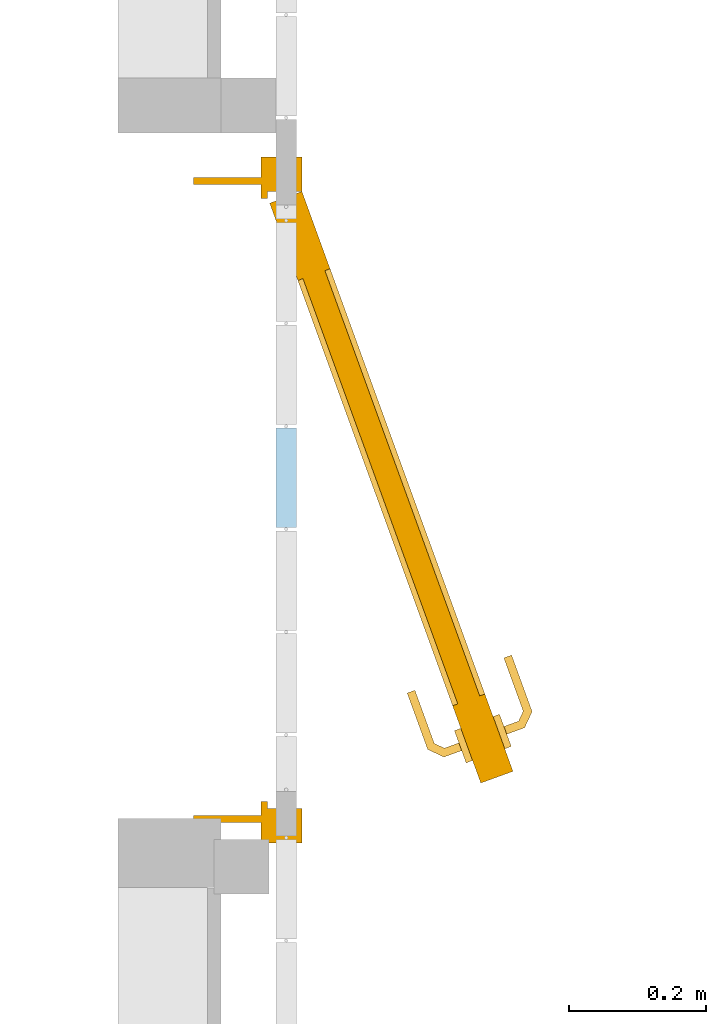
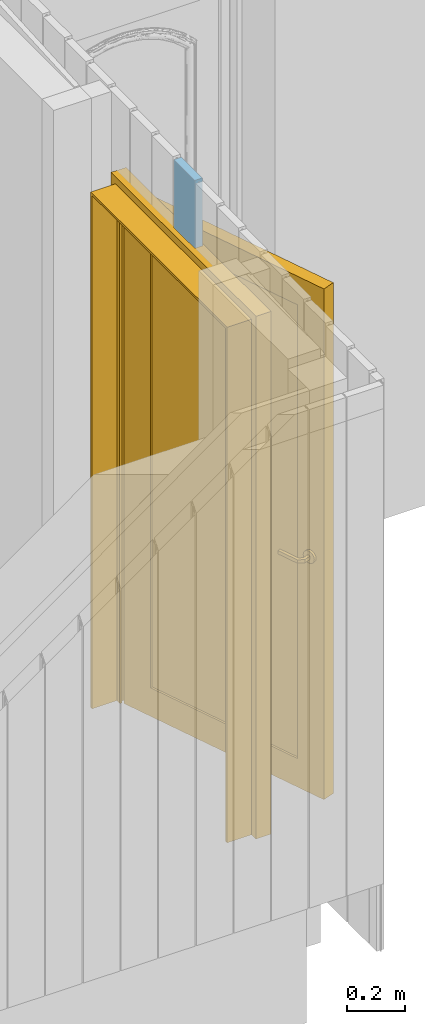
# One storey, part 73 of 81: 1 door, 1 opening, 1 element without a shape of its own, plus 1 element that does not belong to this part.
"""IFC2X3 building model written with IfcOpenShell, lengths in metres."""

from ifc_helpers import new_model, entity, si_unit, converted_unit, derived_unit, direction, frame, frame_2d, origin, place, context, subcontext, project, spatial, rectangle, extrude, faceted_brep, source, transform, mapped, material, material_list, layer, layer_set, layer_usage, type_object, type_shapes, element, fill, aggregate, save


model = new_model("IFC2X3")

# Units and contexts
model_context = context("Model", 3, precision=1e-05, world=origin(), true_north=direction((6.12303176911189e-17, 1.0)))
body_context = subcontext(model_context, "Body", "Model", "MODEL_VIEW")
ifc_project = project(units=[si_unit("LENGTHUNIT", "METRE"), si_unit("AREAUNIT", "SQUARE_METRE"), si_unit("VOLUMEUNIT", "CUBIC_METRE"), converted_unit("PLANEANGLEUNIT", "DEGREE", entity("IfcRatioMeasure", 0.0174532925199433), si_unit("PLANEANGLEUNIT", "RADIAN"), dimensions=[0, 0, 0, 0, 0, 0, 0]), si_unit("MASSUNIT", "GRAM", prefix="KILO"), derived_unit("MASSDENSITYUNIT", [(si_unit("MASSUNIT", "GRAM", prefix="KILO"), 1), (si_unit("LENGTHUNIT", "METRE"), -3)]), derived_unit("MOMENTOFINERTIAUNIT", [(si_unit("LENGTHUNIT", "METRE"), 4)]), si_unit("TIMEUNIT", "SECOND"), si_unit("FREQUENCYUNIT", "HERTZ"), si_unit("THERMODYNAMICTEMPERATUREUNIT", "DEGREE_CELSIUS"), derived_unit("THERMALTRANSMITTANCEUNIT", [(si_unit("MASSUNIT", "GRAM", prefix="KILO"), 1), (si_unit("THERMODYNAMICTEMPERATUREUNIT", "KELVIN"), -1), (si_unit("TIMEUNIT", "SECOND"), -3)]), derived_unit("VOLUMETRICFLOWRATEUNIT", [(si_unit("LENGTHUNIT", "METRE"), 3), (si_unit("TIMEUNIT", "SECOND"), -1)]), si_unit("ELECTRICCURRENTUNIT", "AMPERE"), si_unit("ELECTRICVOLTAGEUNIT", "VOLT"), si_unit("POWERUNIT", "WATT"), si_unit("FORCEUNIT", "NEWTON", prefix="KILO"), si_unit("ILLUMINANCEUNIT", "LUX"), si_unit("LUMINOUSFLUXUNIT", "LUMEN"), si_unit("LUMINOUSINTENSITYUNIT", "CANDELA"), derived_unit("USERDEFINED", [(si_unit("MASSUNIT", "GRAM", prefix="KILO"), -1), (si_unit("LENGTHUNIT", "METRE"), -2), (si_unit("TIMEUNIT", "SECOND"), 3), (si_unit("LUMINOUSFLUXUNIT", "LUMEN"), 1)]), derived_unit("LINEARVELOCITYUNIT", [(si_unit("LENGTHUNIT", "METRE"), 1), (si_unit("TIMEUNIT", "SECOND"), -1)]), si_unit("PRESSUREUNIT", "PASCAL"), derived_unit("USERDEFINED", [(si_unit("LENGTHUNIT", "METRE"), -2), (si_unit("MASSUNIT", "GRAM", prefix="KILO"), 1), (si_unit("TIMEUNIT", "SECOND"), -2)]), derived_unit("LINEARFORCEUNIT", [(si_unit("MASSUNIT", "GRAM", prefix="KILO"), 1), (si_unit("LENGTHUNIT", "METRE"), 1), (si_unit("TIMEUNIT", "SECOND"), -2), (si_unit("LENGTHUNIT", "METRE"), -1)]), derived_unit("PLANARFORCEUNIT", [(si_unit("MASSUNIT", "GRAM", prefix="KILO"), 1), (si_unit("LENGTHUNIT", "METRE"), 1), (si_unit("TIMEUNIT", "SECOND"), -2), (si_unit("LENGTHUNIT", "METRE"), -2)])], contexts=[model_context])

# Site, building, storey
site_placement = place(None, origin())
site = spatial("IfcSite", under=ifc_project, at=site_placement, Name="Surface", CompositionType="ELEMENT")
building_placement = place(site_placement, origin())
building = spatial("IfcBuilding", under=site, at=building_placement, CompositionType="ELEMENT")
storey_placement = place(building_placement, origin())
storey = spatial("IfcBuildingStorey", under=building, at=storey_placement, Name="01 RDC", CompositionType="ELEMENT", Elevation=-1.94916083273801e-14)

# Curtain wall, wall, opening, door
curtain_wall_type = type_object("IfcCurtainWallType", Name="Mur-rideau:1m x 2m", PredefinedType="NOTDEFINED")
curtain_wall_placement = place(storey_placement, origin())
curtain_wall = element("IfcCurtainWall", 1, at=curtain_wall_placement, inside=storey, type_object=curtain_wall_type, Name="Mur-rideau:1m x 2m", ObjectType="Mur-rideau:1m x 2m")
ifc_material_1 = material(Name="Résineux, bois de construction")
ifc_layer = layer(ifc_material_1, 0.03)
ifc_layer_set = layer_set([ifc_layer], Name="Mur-rideau:1m x 2m")
ifc_layer_usage = layer_usage(ifc_layer_set, "AXIS2", "NEGATIVE", 0.015)
wall_type = type_object("IfcWallType", Name="Mur de base:Panneau Triply 30 mm", PredefinedType="NOTDEFINED", material=ifc_layer_set)
wall_placement = place(storey_placement, frame((8.02156158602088, -4.89595163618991, 2.20000000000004), z_axis=(0.0, 0.0, 1.0), x_axis=(0.0, -1.0, 0.0)))
wall = element("IfcWallStandardCase", 2, at=wall_placement, type_object=wall_type, material=ifc_layer_usage, Name="Mur de base:Panneau Triply 30 mm", ObjectType="Mur de base:Panneau Triply 30 mm", context=body_context, shape_type="SweptSolid", body=[
    extrude(rectangle(XDim=0.145018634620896, YDim=0.0299999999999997, at=frame_2d((0.0725093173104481, 1.17961196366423e-16), x_axis=(-1.0, 0.0))), origin(), (0.0, 0.0, 1.0), 0.285235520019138),
])
opening_placement = place(wall_placement, frame((0.605009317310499, -0.315000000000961, -2.20000000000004), z_axis=(0.0, 0.0, 1.0), x_axis=(0.0, 1.0, 0.0)))
opening = element("IfcOpeningElement", 3, at=opening_placement, cuts=wall, Name="Mur de base:Panneau Triply 30 mm", ObjectType="Opening", context=body_context, shape_type="Brep", body=[
    faceted_brep([(0.630000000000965, 0.960000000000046, 2.15999999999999), (0.338000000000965, 0.960000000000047, 2.15999999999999), (0.338000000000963, 0.0400000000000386, 2.15999999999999), (0.630000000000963, 0.0400000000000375, 2.15999999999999), (0.0, 0.960000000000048, 0.0), (0.180000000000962, 0.960000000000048, 0.0), (0.180000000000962, 0.970000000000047, 0.0), (0.27800000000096, 0.970000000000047, 0.0), (0.27800000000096, 1.0, 0.0), (0.338000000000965, 1.0, 0.0), (0.338000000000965, 0.960000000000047, 0.0), (0.630000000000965, 0.960000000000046, 0.0), (0.630000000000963, 0.0400000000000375, 0.0), (0.338000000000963, 0.0400000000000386, 0.0), (0.338000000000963, 0.0, 0.0), (0.278000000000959, 0.0, 0.0), (0.278000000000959, 0.0300000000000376, 0.0), (0.180000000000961, 0.0300000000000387, 0.0), (0.180000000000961, 0.0400000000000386, 0.0), (0.0, 0.0400000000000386, 0.0), (0.0, 0.960000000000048, 2.15999999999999), (0.180000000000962, 0.960000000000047, 2.15999999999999), (0.0, 0.0400000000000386, 2.15999999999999), (0.278000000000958, 0.0, 2.20000000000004), (0.278000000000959, 1.0, 2.20000000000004), (0.278000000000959, 0.970000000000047, 2.17), (0.278000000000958, 0.0300000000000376, 2.17), (0.18000000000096, 0.0300000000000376, 2.17), (0.180000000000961, 0.970000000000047, 2.17), (0.18000000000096, 0.0400000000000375, 2.15999999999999), (0.338000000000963, 1.0, 2.20000000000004), (0.338000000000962, 0.0, 2.20000000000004)], [[[0, 1, 2, 3]], [[4, 5, 6, 7, 8, 9, 10, 11, 12, 13, 14, 15, 16, 17, 18, 19]], [[20, 21, 5, 4]], [[20, 4, 19, 22]], [[3, 2, 13, 12]], [[3, 12, 11, 0]], [[15, 23, 24, 8, 7, 25, 26, 16]], [[16, 26, 27, 17]], [[17, 27, 28, 6, 5, 21, 29, 18]], [[13, 2, 1, 10, 9, 30, 31, 14]], [[14, 31, 23, 15]], [[25, 28, 27, 26]], [[23, 31, 30, 24]], [[7, 6, 28, 25]], [[24, 30, 9, 8]], [[19, 18, 29, 22]], [[11, 10, 1, 0]], [[22, 29, 21, 20]]]),
])
ifc_material_2 = material(Name="PVC - Blanc")
ifc_material_list = material_list([ifc_material_2, ifc_material_2, ifc_material_2])
door_style = type_object("IfcDoorStyle", Name="Ext. Simple:Lisse - 0.90 m x 2.15 m", ConstructionType="NOTDEFINED", OperationType="SINGLE_SWING_RIGHT", ParameterTakesPrecedence=False, Sizeable=False, material=ifc_material_list)
shared_shape = source(origin(), body_context, "Body", "Brep", [
    faceted_brep([(0.170158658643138, -0.00248081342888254, 0.975851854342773), (0.17582455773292, -0.000418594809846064, 0.978349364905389), (0.180689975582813, 0.00135227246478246, 0.982322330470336), (0.18442334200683, 0.00271110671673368, 0.9875), (0.186770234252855, 0.00356530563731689, 0.993529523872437), (0.187570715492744, 0.00385665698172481, 1.0), (0.186770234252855, 0.00356530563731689, 1.00647047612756), (0.18442334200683, 0.00271110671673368, 1.0125), (0.180689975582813, 0.00135227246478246, 1.01767766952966), (0.17582455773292, -0.000418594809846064, 1.02165063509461), (0.170158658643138, -0.00248081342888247, 1.02414814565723), (0.164078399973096, -0.00469384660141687, 1.025), (0.157998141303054, -0.00690687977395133, 1.02414814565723), (0.152332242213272, -0.00896909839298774, 1.02165063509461), (0.147466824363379, -0.0107399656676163, 1.01767766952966), (0.143733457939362, -0.0120987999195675, 1.0125), (0.141386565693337, -0.0129529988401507, 1.00647047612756), (0.140586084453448, -0.0132443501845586, 1.0), (0.141386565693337, -0.0129529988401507, 0.993529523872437), (0.143733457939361, -0.0120987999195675, 0.9875), (0.147466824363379, -0.0107399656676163, 0.982322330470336), (0.152332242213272, -0.00896909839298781, 0.978349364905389), (0.157998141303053, -0.00690687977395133, 0.975851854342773), (0.164078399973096, -0.00469384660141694, 0.975), (0.166738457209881, 0.00691611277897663, 1.02414814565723), (0.172404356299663, 0.00897833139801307, 1.02165063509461), (0.177269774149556, 0.0107491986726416, 1.01767766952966), (0.181003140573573, 0.0121080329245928, 1.0125), (0.183350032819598, 0.012962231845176, 1.00647047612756), (0.184150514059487, 0.0132535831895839, 1.0), (0.183350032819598, 0.012962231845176, 0.993529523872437), (0.181003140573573, 0.0121080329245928, 0.9875), (0.177269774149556, 0.0107491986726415, 0.982322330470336), (0.172404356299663, 0.008978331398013, 0.978349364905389), (0.166738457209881, 0.00691611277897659, 0.975851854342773), (0.160658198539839, 0.00470307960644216, 0.975), (0.154577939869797, 0.00249004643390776, 0.975851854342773), (0.148912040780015, 0.000427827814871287, 0.978349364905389), (0.144046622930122, -0.00134303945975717, 0.982322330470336), (0.140313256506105, -0.00270187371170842, 0.9875), (0.13796636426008, -0.00355607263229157, 0.993529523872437), (0.137165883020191, -0.00384742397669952, 1.0), (0.13796636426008, -0.00355607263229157, 1.00647047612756), (0.140313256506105, -0.00270187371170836, 1.0125), (0.144046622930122, -0.00134303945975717, 1.01767766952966), (0.148912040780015, 0.000427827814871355, 1.02165063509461), (0.154577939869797, 0.0024900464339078, 1.02414814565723), (0.160658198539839, 0.00470307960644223, 1.025)], [[[0, 1, 2, 3, 4, 5, 6, 7, 8, 9, 10, 11, 12, 13, 14, 15, 16, 17, 18, 19, 20, 21, 22, 23]], [[24, 25, 26, 27, 28, 29, 30, 31, 32, 33, 34, 35, 36, 37, 38, 39, 40, 41, 42, 43, 44, 45, 46, 47]], [[40, 18, 17, 41]], [[39, 19, 18, 40]], [[21, 20, 38, 37]], [[39, 38, 20, 19]], [[22, 21, 37, 36]], [[23, 22, 36, 35]], [[34, 0, 23, 35]], [[33, 1, 0, 34]], [[3, 2, 32, 31]], [[33, 32, 2, 1]], [[4, 3, 31, 30]], [[5, 4, 30, 29]], [[28, 6, 5, 29]], [[27, 7, 6, 28]], [[9, 8, 26, 25]], [[27, 26, 8, 7]], [[10, 9, 25, 24]], [[11, 10, 24, 47]], [[46, 12, 11, 47]], [[45, 13, 12, 46]], [[15, 14, 44, 43]], [[45, 44, 14, 13]], [[16, 15, 43, 42]], [[17, 16, 42, 41]]]),
    faceted_brep([(0.149637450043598, 0.053900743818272, 0.975851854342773), (0.155303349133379, 0.0559629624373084, 0.978349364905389), (0.160168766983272, 0.057733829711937, 0.982322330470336), (0.16390213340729, 0.0590926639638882, 0.9875), (0.166249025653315, 0.0599468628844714, 0.993529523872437), (0.167049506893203, 0.0602382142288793, 1.0), (0.166249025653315, 0.0599468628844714, 1.00647047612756), (0.16390213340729, 0.0590926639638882, 1.0125), (0.160168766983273, 0.057733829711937, 1.01767766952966), (0.15530334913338, 0.0559629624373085, 1.02165063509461), (0.149637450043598, 0.053900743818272, 1.02414814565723), (0.143557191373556, 0.0516877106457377, 1.025), (0.137476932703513, 0.0494746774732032, 1.02414814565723), (0.131811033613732, 0.0474124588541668, 1.02165063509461), (0.126945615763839, 0.0456415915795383, 1.01767766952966), (0.123212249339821, 0.044282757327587, 1.0125), (0.120865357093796, 0.0434285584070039, 1.00647047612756), (0.120064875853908, 0.0431372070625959, 1.0), (0.120865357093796, 0.0434285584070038, 0.993529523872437), (0.123212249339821, 0.044282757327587, 0.9875), (0.126945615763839, 0.0456415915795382, 0.982322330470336), (0.131811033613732, 0.0474124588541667, 0.978349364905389), (0.137476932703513, 0.0494746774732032, 0.975851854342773), (0.143557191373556, 0.0516877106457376, 0.975), (0.146217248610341, 0.0632976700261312, 1.02414814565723), (0.151883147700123, 0.0653598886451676, 1.02165063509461), (0.156748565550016, 0.0671307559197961, 1.01767766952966), (0.160481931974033, 0.0684895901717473, 1.0125), (0.162828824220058, 0.0693437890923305, 1.00647047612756), (0.163629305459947, 0.0696351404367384, 1.0), (0.162828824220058, 0.0693437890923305, 0.993529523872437), (0.160481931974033, 0.0684895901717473, 0.9875), (0.156748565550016, 0.067130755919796, 0.982322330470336), (0.151883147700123, 0.0653598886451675, 0.978349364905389), (0.146217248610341, 0.0632976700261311, 0.975851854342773), (0.140136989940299, 0.0610846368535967, 0.975), (0.134056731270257, 0.0588716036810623, 0.975851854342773), (0.128390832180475, 0.0568093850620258, 0.978349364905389), (0.123525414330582, 0.0550385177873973, 0.982322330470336), (0.119792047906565, 0.0536796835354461, 0.9875), (0.11744515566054, 0.0528254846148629, 0.993529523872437), (0.116644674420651, 0.052534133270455, 1.0), (0.11744515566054, 0.052825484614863, 1.00647047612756), (0.119792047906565, 0.0536796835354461, 1.0125), (0.123525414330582, 0.0550385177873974, 1.01767766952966), (0.128390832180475, 0.0568093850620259, 1.02165063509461), (0.134056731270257, 0.0588716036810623, 1.02414814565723), (0.140136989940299, 0.0610846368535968, 1.025)], [[[0, 1, 2, 3, 4, 5, 6, 7, 8, 9, 10, 11, 12, 13, 14, 15, 16, 17, 18, 19, 20, 21, 22, 23]], [[24, 25, 26, 27, 28, 29, 30, 31, 32, 33, 34, 35, 36, 37, 38, 39, 40, 41, 42, 43, 44, 45, 46, 47]], [[40, 18, 17, 41]], [[39, 19, 18, 40]], [[21, 20, 38, 37]], [[39, 38, 20, 19]], [[22, 21, 37, 36]], [[23, 22, 36, 35]], [[34, 0, 23, 35]], [[33, 1, 0, 34]], [[3, 2, 32, 31]], [[33, 32, 2, 1]], [[4, 3, 31, 30]], [[5, 4, 30, 29]], [[28, 6, 5, 29]], [[27, 7, 6, 28]], [[9, 8, 26, 25]], [[27, 26, 8, 7]], [[10, 9, 25, 24]], [[11, 10, 24, 47]], [[46, 12, 11, 47]], [[45, 13, 12, 46]], [[15, 14, 44, 43]], [[45, 44, 14, 13]], [[16, 15, 43, 42]], [[17, 16, 42, 41]]]),
    faceted_brep([(0.162175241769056, -0.00538653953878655, 1.00778044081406), (0.165981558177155, -0.00400115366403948, 1.00778044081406), (0.169716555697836, -0.00264172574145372, 1.007), (0.169716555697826, -0.00264172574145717, 0.993000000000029), (0.16598155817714, -0.00400115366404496, 0.992219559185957), (0.162175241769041, -0.00538653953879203, 0.992219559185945), (0.158440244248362, -0.00674596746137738, 0.992999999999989), (0.158440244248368, -0.00674596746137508, 1.007), (0.167897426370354, -0.0327293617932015, 1.007), (0.171069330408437, -0.029822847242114, 1.00778044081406), (0.191639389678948, -0.0394148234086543, 1.00778044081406), (0.191830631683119, -0.035034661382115, 1.00778044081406), (0.174301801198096, -0.0268608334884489, 1.00778044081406), (0.177473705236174, -0.0239543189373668, 1.007), (0.177473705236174, -0.0239543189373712, 0.993000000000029), (0.174301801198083, -0.0268608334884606, 0.992219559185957), (0.191830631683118, -0.0350346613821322, 0.992219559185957), (0.191639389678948, -0.0394148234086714, 0.992219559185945), (0.171069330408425, -0.0298228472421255, 0.992219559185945), (0.167897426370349, -0.0327293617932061, 0.992999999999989), (0.191451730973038, -0.0437129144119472, 1.007), (0.192018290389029, -0.0307365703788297, 1.007), (0.192018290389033, -0.0307365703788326, 0.993000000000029), (0.191451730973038, -0.043712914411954, 0.992999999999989), (0.273807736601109, -0.0137377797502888, 0.992999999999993), (0.272448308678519, -0.0100027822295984, 0.992219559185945), (0.271062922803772, -0.00619646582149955, 0.992219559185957), (0.269703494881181, -0.0024614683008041, 0.993000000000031), (0.269703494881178, -0.00246146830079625, 1.007), (0.271062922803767, -0.00619646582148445, 1.00778044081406), (0.272448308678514, -0.0100027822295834, 1.00778044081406), (0.273807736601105, -0.0137377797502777, 1.00699999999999), (0.228974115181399, -0.0300558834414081, 1.007), (0.232139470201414, -0.0225187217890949, 1.0078786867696), (0.230860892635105, -0.0165990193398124, 1.007), (0.230860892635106, -0.0165990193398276, 0.993000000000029), (0.232139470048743, -0.0225187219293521, 0.992121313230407), (0.228974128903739, -0.0300558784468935, 0.992999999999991)], [[[0, 1, 2, 3, 4, 5, 6, 7]], [[8, 9, 0, 7]], [[9, 10, 11, 12, 1, 0]], [[12, 13, 2, 1]], [[3, 2, 13, 14]], [[14, 15, 4, 3]], [[15, 16, 17, 18, 5, 4]], [[18, 19, 6, 5]], [[7, 6, 19, 8]], [[20, 10, 9, 8]], [[11, 21, 13, 12]], [[14, 13, 21, 22]], [[22, 16, 15, 14]], [[17, 23, 19, 18]], [[8, 19, 23, 20]], [[24, 25, 26, 27, 28, 29, 30, 31]], [[32, 30, 33]], [[31, 30, 32]], [[10, 20, 32]], [[33, 34, 11]], [[21, 11, 34]], [[34, 29, 28]], [[30, 29, 33]], [[29, 34, 33]], [[10, 32, 33]], [[10, 33, 11]], [[22, 21, 34, 28, 27, 35]], [[35, 26, 36]], [[37, 36, 25]], [[22, 35, 16]], [[35, 27, 26]], [[24, 37, 25]], [[23, 17, 37]], [[37, 17, 36]], [[17, 16, 36]], [[16, 35, 36]], [[25, 36, 26]], [[20, 23, 37, 24, 31, 32]]]),
    faceted_brep([(0.13823383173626, 0.060391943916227, 1.00778044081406), (0.134498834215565, 0.0590325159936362, 1.007), (0.134498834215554, 0.059032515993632, 0.992999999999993), (0.138233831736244, 0.0603919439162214, 0.992219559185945), (0.142040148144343, 0.0617773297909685, 0.992219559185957), (0.145775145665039, 0.0631367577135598, 0.993000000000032), (0.145775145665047, 0.0631367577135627, 1.007), (0.142040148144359, 0.0617773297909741, 1.00778044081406), (0.138084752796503, 0.0842659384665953, 0.993000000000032), (0.138084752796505, 0.084265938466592, 1.007), (0.13378666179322, 0.0844535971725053, 1.00778044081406), (0.142042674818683, 0.102158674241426, 1.00778044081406), (0.139080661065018, 0.105391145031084, 1.00778044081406), (0.12940649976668, 0.0846448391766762, 1.00778044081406), (0.12510840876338, 0.084832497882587, 1.007), (0.125108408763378, 0.0848324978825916, 0.992999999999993), (0.129406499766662, 0.084644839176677, 0.992219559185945), (0.139080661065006, 0.105391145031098, 0.992219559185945), (0.14204267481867, 0.102158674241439, 0.992219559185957), (0.133786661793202, 0.0844535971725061, 0.992219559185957), (0.144949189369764, 0.0989867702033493, 0.993000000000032), (0.144949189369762, 0.0989867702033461, 1.007), (0.136174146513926, 0.108563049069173, 1.007), (0.136174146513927, 0.108563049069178, 0.992999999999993), (0.222530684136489, 0.127224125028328, 0.993000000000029), (0.221171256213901, 0.130959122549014, 0.992219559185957), (0.219785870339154, 0.134765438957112, 0.992219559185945), (0.218426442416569, 0.138500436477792, 0.992999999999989), (0.218426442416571, 0.138500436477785, 1.007), (0.21978587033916, 0.134765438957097, 1.00778044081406), (0.221171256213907, 0.130959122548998, 1.00778044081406), (0.222530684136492, 0.127224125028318, 1.007), (0.183739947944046, 0.113105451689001, 0.993000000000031), (0.183739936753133, 0.113105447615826, 1.007), (0.180914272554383, 0.118462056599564, 1.0078786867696), (0.173696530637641, 0.122220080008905, 1.007), (0.173696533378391, 0.122220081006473, 0.992999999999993), (0.180914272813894, 0.118462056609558, 0.992121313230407)], [[[0, 1, 2, 3, 4, 5, 6, 7]], [[6, 5, 8, 9]], [[9, 10, 7, 6]], [[10, 11, 12, 13, 0, 7]], [[13, 14, 1, 0]], [[2, 1, 14, 15]], [[15, 16, 3, 2]], [[16, 17, 18, 19, 4, 3]], [[19, 8, 5, 4]], [[9, 8, 20, 21]], [[21, 11, 10, 9]], [[12, 22, 14, 13]], [[15, 14, 22, 23]], [[23, 17, 16, 15]], [[18, 20, 8, 19]], [[24, 25, 26, 27, 28, 29, 30, 31]], [[21, 20, 32, 24, 31, 33]], [[33, 30, 34]], [[35, 34, 29]], [[21, 33, 11]], [[33, 31, 30]], [[28, 35, 29]], [[22, 12, 35]], [[35, 12, 34]], [[12, 11, 34]], [[11, 33, 34]], [[29, 34, 30]], [[22, 35, 28, 27, 36, 23]], [[36, 26, 37]], [[27, 26, 36]], [[17, 23, 36]], [[37, 32, 18]], [[20, 18, 32]], [[32, 25, 24]], [[26, 25, 37]], [[25, 32, 37]], [[17, 36, 37]], [[17, 37, 18]]]),
    faceted_brep([(0.0871756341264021, 0.031166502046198, 2.15), (0.93289899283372, 0.3389846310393, 2.15), (0.93289899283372, 0.3389846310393, 0.0), (0.0871756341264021, 0.031166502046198, 0.0), (0.199938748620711, 0.0722089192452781, 2.03), (0.19993874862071, 0.072208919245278, 0.12), (0.820135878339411, 0.29794221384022, 0.12), (0.820135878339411, 0.29794221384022, 2.03), (0.104276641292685, -0.0158181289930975, 2.15), (0.104276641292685, -0.0158181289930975, 0.0), (0.950000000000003, 0.292000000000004, 0.0), (0.950000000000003, 0.292000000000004, 2.15), (0.837236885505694, 0.250957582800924, 2.03), (0.837236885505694, 0.250957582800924, 0.12), (0.217039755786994, 0.0252242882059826, 0.12), (0.217039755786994, 0.0252242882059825, 2.03), (0.834500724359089, 0.258475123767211, 2.03), (0.214303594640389, 0.0327418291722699, 2.03), (0.214303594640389, 0.0327418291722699, 0.12), (0.834500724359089, 0.258475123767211, 0.12), (0.202674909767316, 0.0646913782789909, 2.03), (0.822872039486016, 0.290424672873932, 2.03), (0.822872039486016, 0.290424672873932, 0.12), (0.202674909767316, 0.0646913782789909, 0.12)], [[[0, 1, 2, 3], [4, 5, 6, 7]], [[8, 9, 10, 11], [12, 13, 14, 15]], [[1, 0, 8, 11]], [[2, 1, 11, 10]], [[3, 2, 10, 9]], [[0, 3, 9, 8]], [[16, 17, 18, 19]], [[16, 19, 13, 12]], [[19, 18, 14, 13]], [[18, 17, 15, 14]], [[17, 16, 12, 15]], [[20, 21, 22, 23]], [[20, 23, 5, 4]], [[23, 22, 6, 5]], [[22, 21, 7, 6]], [[21, 20, 4, 7]]]),
    faceted_brep([(0.0, 0.352000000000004, 0.0), (0.0300000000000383, 0.352000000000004, 0.0), (0.0300000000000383, 0.450000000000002, 0.0), (0.0400000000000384, 0.450000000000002, 0.0), (0.0400000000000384, 0.352000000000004, 0.0), (0.060000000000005, 0.352000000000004, 0.0), (0.060000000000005, 0.342000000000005, 0.0), (0.0500000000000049, 0.342000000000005, 0.0), (0.0500000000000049, 0.292, 0.0), (0.0, 0.292, 0.0), (0.0, 0.352000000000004, 2.20000000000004), (1.0, 0.352000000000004, 2.20000000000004), (1.0, 0.352000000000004, 0.0), (0.970000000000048, 0.352000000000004, 0.0), (0.970000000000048, 0.352000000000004, 2.17), (0.0300000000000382, 0.352000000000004, 2.17), (0.0300000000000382, 0.450000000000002, 2.17), (0.970000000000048, 0.450000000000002, 2.17), (0.970000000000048, 0.450000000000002, 0.0), (0.960000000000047, 0.450000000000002, 0.0), (0.960000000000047, 0.450000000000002, 2.16), (0.0400000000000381, 0.450000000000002, 2.16), (0.0400000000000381, 0.352000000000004, 2.16), (0.960000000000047, 0.352000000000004, 2.16), (0.960000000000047, 0.352000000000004, 0.0), (0.940000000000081, 0.352000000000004, 0.0), (0.940000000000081, 0.352000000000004, 2.14000000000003), (0.060000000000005, 0.352000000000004, 2.14000000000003), (0.060000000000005, 0.342000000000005, 2.14000000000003), (0.940000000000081, 0.342000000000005, 2.14000000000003), (0.940000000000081, 0.342000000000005, 0.0), (0.950000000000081, 0.342000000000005, 0.0), (0.950000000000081, 0.342000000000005, 2.15000000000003), (0.0500000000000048, 0.342000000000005, 2.15000000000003), (0.0500000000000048, 0.292, 2.15000000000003), (0.950000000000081, 0.292, 2.15000000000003), (0.950000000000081, 0.292, 0.0), (1.0, 0.292, 0.0), (1.0, 0.292, 2.20000000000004), (0.0, 0.292, 2.20000000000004)], [[[0, 1, 2, 3, 4, 5, 6, 7, 8, 9]], [[1, 0, 10, 11, 12, 13, 14, 15]], [[2, 1, 15, 16]], [[3, 2, 16, 17, 18, 19, 20, 21]], [[4, 3, 21, 22]], [[5, 4, 22, 23, 24, 25, 26, 27]], [[6, 5, 27, 28]], [[7, 6, 28, 29, 30, 31, 32, 33]], [[8, 7, 33, 34]], [[9, 8, 34, 35, 36, 37, 38, 39]], [[0, 9, 39, 10]], [[11, 38, 37, 12]], [[12, 37, 36, 31, 30, 25, 24, 19, 18, 13]], [[17, 14, 13, 18]], [[23, 20, 19, 24]], [[29, 26, 25, 30]], [[35, 32, 31, 36]], [[16, 15, 14, 17]], [[22, 21, 20, 23]], [[28, 27, 26, 29]], [[34, 33, 32, 35]], [[10, 39, 38, 11]]]),
])
type_shapes(door_style, [shared_shape])
door_placement = place(opening_placement, frame((0.630000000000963, 0.0, 0.0), z_axis=(0.0, 0.0, 1.0), x_axis=(0.0, 1.0, 0.0)))
door = element("IfcDoor", 4, at=door_placement, inside=storey, type_object=door_style, material=ifc_material_2, Name="Ext. Simple:Lisse - 0.90 m x 2.15 m", ObjectType="Ext. Simple:Lisse - 0.90 m x 2.15 m", OverallHeight=2.20000000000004, OverallWidth=1.0000000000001, context=body_context, shape_type="MappedRepresentation", body=[
    mapped(shared_shape, transform((0.0, 0.0, 0.0), scale=1.0)),
])
fill(opening, door)
aggregate(curtain_wall, [wall])

save(model, "model.ifc")
